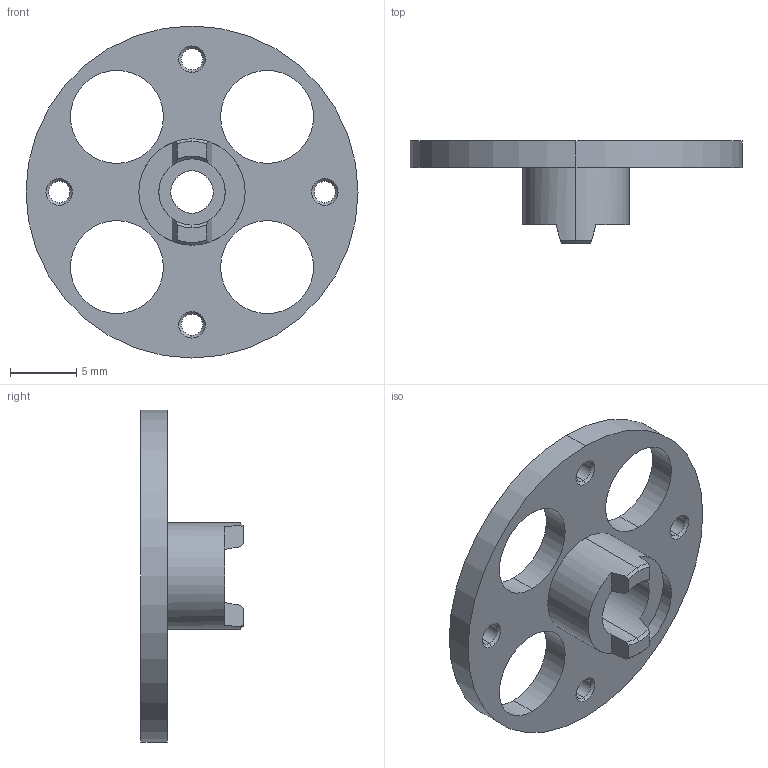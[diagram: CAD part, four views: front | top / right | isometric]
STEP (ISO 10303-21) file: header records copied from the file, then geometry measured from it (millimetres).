
FILE_DESCRIPTION (( 'STEP AP214' ), '1' );
FILE_NAME ('RS60x_ServoHorn.STEP', '2008-08-07T03:00:25', ( 'cada3' ), ( '双葉電子工業（株）' ), 'SwSTEP 2.0', 'SolidWorks 2008', '' );
FILE_SCHEMA (( 'AUTOMOTIVE_DESIGN' ));
Length unit declared in the file: millimetre
Products named in the file (1): RS60x_ServoHorn
Bounding box: 25 x 7.7 x 25 mm (x, y, z)
Volume: 772.1 mm3; surface area: 1233.1 mm2
Topology: 1 solids, 1 shells, 57 faces, 144 edges, 90 vertices
Faces by surface type: cylinder 24, cone 22, plane 11
Entity records: 2426 total; most frequent: CARTESIAN_POINT 340, DIRECTION 322, ORIENTED_EDGE 288, EDGE_CURVE 144, AXIS2_PLACEMENT_3D 136, VERTEX_POINT 90, CIRCLE 78, EDGE_LOOP 76
